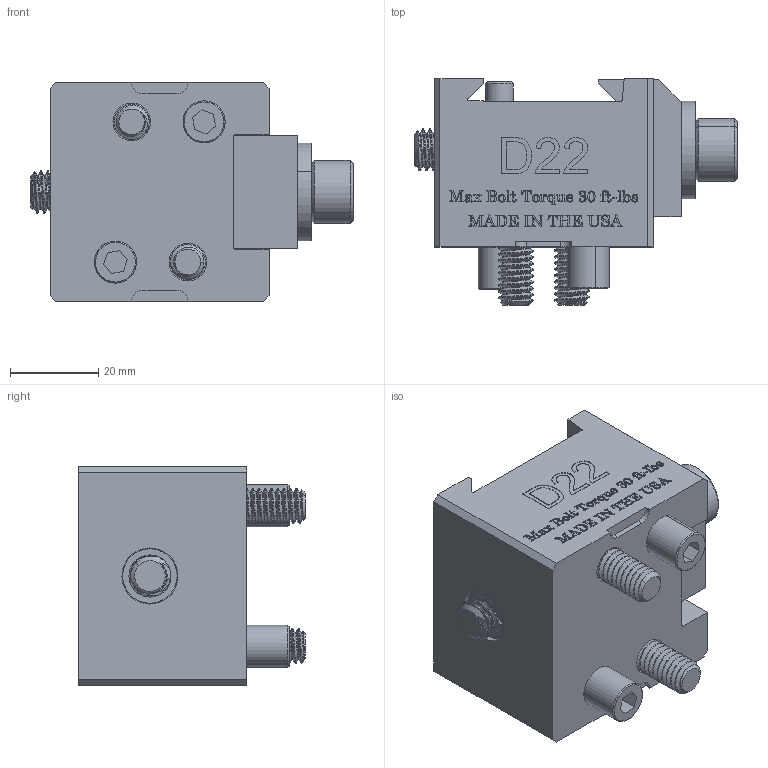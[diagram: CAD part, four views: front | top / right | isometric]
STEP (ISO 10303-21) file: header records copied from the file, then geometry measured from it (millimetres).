
FILE_DESCRIPTION (( 'STEP AP214' ), '1' );
FILE_NAME ('D22.STEP', '2019-05-07T15:07:44', ( '' ), ( '' ), 'SwSTEP 2.0', 'SolidWorks 2018', '' );
FILE_SCHEMA (( 'AUTOMOTIVE_DESIGN' ));
Length unit declared in the file: inch
Products named in the file (11): 72132_91251A587; 72170_DEFAULT; SLD375_SLD375; CDM375; HW.0406X0875.FW_DEFAULT; HW.0480X0625.CS_DEFAULT; .375-16 TIME SERT_03819; LP375_NO THREADS; LP250_NO THREADS ; D221M-1_D221M; D22
Assembly tree (12 placements, depth 2):
  D22
    D221M-1_D221M
    LP250_NO THREADS 
    LP375_NO THREADS  x2
    .375-16 TIME SERT_03819
    HW.0480X0625.CS_DEFAULT
    HW.0406X0875.FW_DEFAULT
    CDM375
    SLD375_SLD375
    72170_DEFAULT
    72132_91251A587  x2
Bounding box: 73.03 x 51.31 x 49.53 mm (x, y, z)
Volume: 90538 mm3; surface area: 36631.4 mm2
Topology: 12 solids, 12 shells, 1669 faces, 4538 edges, 2996 vertices
Faces by surface type: plane 725, bspline 439, cylinder 422, cone 75, torus 8
Entity records: 85450 total; most frequent: CARTESIAN_POINT 37925, ORIENTED_EDGE 8122, DIRECTION 5134, EDGE_CURVE 4061, VERTEX_POINT 2688, LINE 2492, VECTOR 2492, EDGE_LOOP 1611
